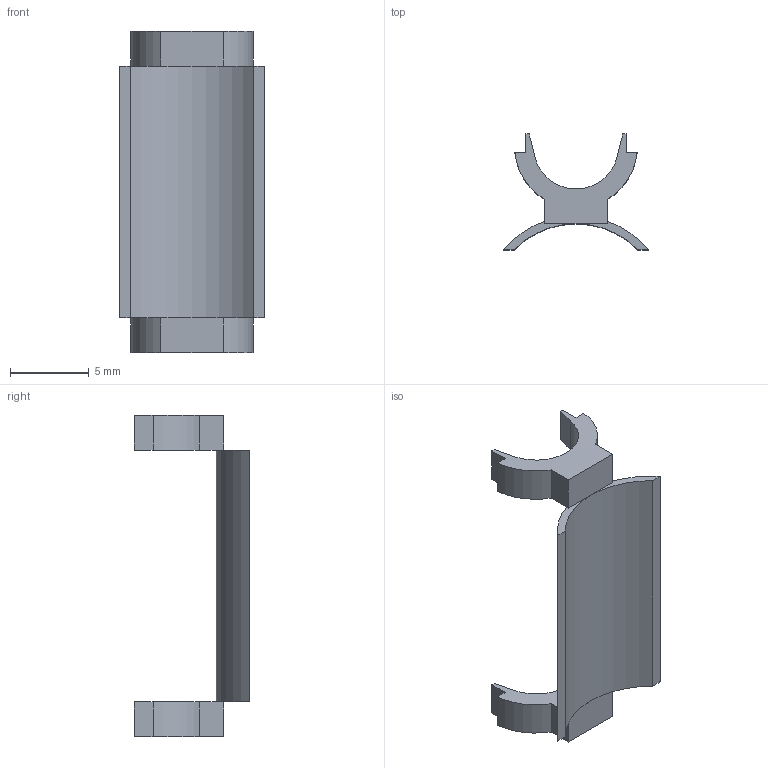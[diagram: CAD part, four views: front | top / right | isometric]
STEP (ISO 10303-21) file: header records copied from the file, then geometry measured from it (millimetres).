
FILE_DESCRIPTION(/* description */ ('Unknown'),/* implementation_level */ '2;1');
FILE_NAME(/* name */ 'ISP06',/* time_stamp */ '2026-09-29T09:58:01+08:00',/* author */ ('Unknown'),/* organization */ ('Unknown'),/* preprocessor_version */ 'ST-DEVELOPER v16.7',/* originating_system */ 'DEX',/* authorisation */ $);
FILE_SCHEMA (('AUTOMOTIVE_DESIGN {1 0 10303 214 3 1 1}'));
Length unit declared in the file: millimetre
Products named in the file (1): NHLF06
Bounding box: 9.2 x 7.35 x 20.4 mm (x, y, z)
Volume: 151.9 mm3; surface area: 527.1 mm2
Topology: 1 solids, 1 shells, 40 faces, 108 edges, 70 vertices
Faces by surface type: plane 32, cylinder 8
Entity records: 1639 total; most frequent: CARTESIAN_POINT 219, ORIENTED_EDGE 216, DIRECTION 212, EDGE_CURVE 108, LINE 86, VECTOR 86, VERTEX_POINT 70, AXIS2_PLACEMENT_3D 63
